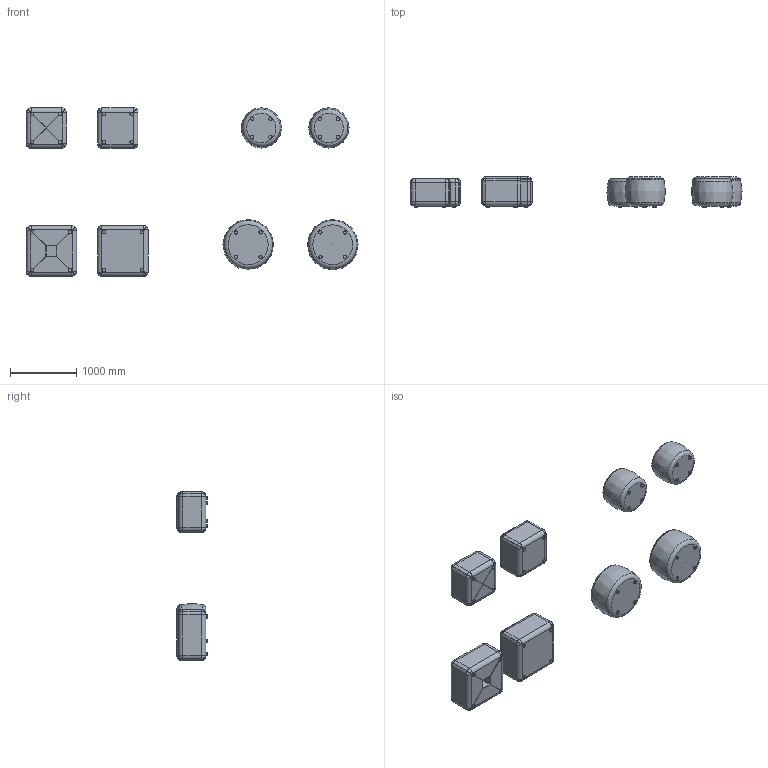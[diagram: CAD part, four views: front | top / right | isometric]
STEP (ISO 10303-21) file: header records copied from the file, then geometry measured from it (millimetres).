
FILE_DESCRIPTION(/* description */ (''),/* implementation_level */ '2;1');
FILE_NAME(/* name */ 'Kova_Ottomans.step',/* time_stamp */ '2025-12-08T08:37:27-08:00',/* author */ (''),/* organization */ (''),/* preprocessor_version */ 'ST-DEVELOPER v20.1',/* originating_system */ 'Autodesk Translation Framework v14.21.0.0',/* authorisation */ '');
FILE_SCHEMA (('AUTOMOTIVE_DESIGN { 1 0 10303 214 3 1 1 }'));
Length unit declared in the file: inch
Products named in the file (3): Poof Ottomans; Poof Square Ottomans; New Soft Seating CNC V2
Assembly tree (2 placements, depth 3):
  Poof Ottomans
    Poof Square Ottomans
      New Soft Seating CNC V2
Bounding box: 5007.21 x 457.24 x 2541.33 mm (x, y, z)
Volume: 1368149584.3 mm3; surface area: 28472669.9 mm2
Topology: 70 solids, 70 shells, 942 faces, 1952 edges, 1148 vertices
Faces by surface type: cylinder 299, plane 234, torus 197, bspline 106, sphere 60, cone 46
Full cylindrical faces by diameter (mm): 31.75 x32, 50.8 x32, 465.897 x2, 601.797 x1
Entity records: 30504 total; most frequent: CARTESIAN_POINT 10251, DIRECTION 4651, ORIENTED_EDGE 3900, AXIS2_PLACEMENT_3D 2007, EDGE_CURVE 1950, CIRCLE 1158, VERTEX_POINT 1148, FACE_OUTER_BOUND 942
